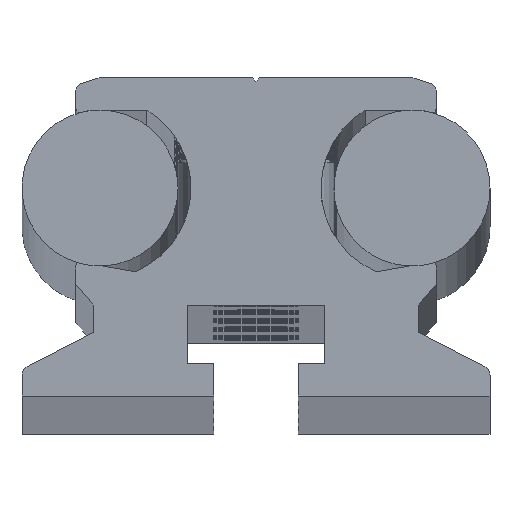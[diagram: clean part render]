
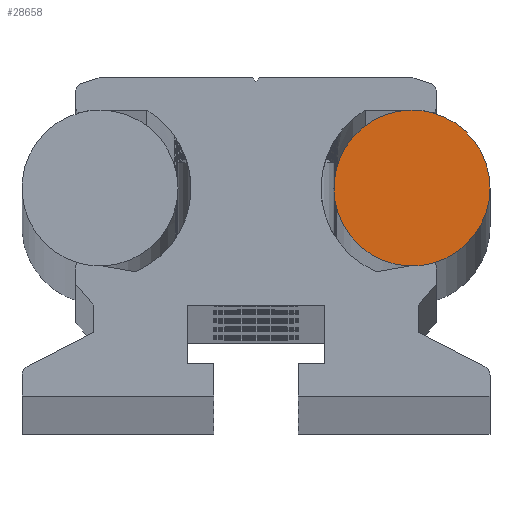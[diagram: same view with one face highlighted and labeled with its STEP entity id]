
A CAD part, top view. The second image highlights one B-rep face of the part: STEP entity #28658.
In plain terms, the highlighted planar face has unit normal (0, 0, 1).
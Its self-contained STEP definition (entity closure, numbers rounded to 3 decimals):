
#2013 = CARTESIAN_POINT ( 'NONE',  ( 12., 16., -0.5 ) ) ;
#2026 = PLANE ( 'NONE',  #23090 ) ;
#2037 = DIRECTION ( 'NONE',  ( 0., 0., 1. ) ) ;
#2038 = DIRECTION ( 'NONE',  ( 1., 0., 0. ) ) ;
#6759 = EDGE_CURVE ( 'NONE', #10334, #10362, #19289, .T. ) ;
#7445 = CARTESIAN_POINT ( 'NONE',  ( 13.516, 21.805, -0.5 ) ) ;
#7664 = FACE_OUTER_BOUND ( 'NONE', #27510, .T. ) ;
#8867 = EDGE_CURVE ( 'NONE', #10289, #10251, #15431, .T. ) ;
#8892 = EDGE_CURVE ( 'NONE', #28531, #10334, #15449, .T. ) ;
#10251 = VERTEX_POINT ( 'NONE', #25933 ) ;
#10289 = VERTEX_POINT ( 'NONE', #26007 ) ;
#10334 = VERTEX_POINT ( 'NONE', #26097 ) ;
#10362 = VERTEX_POINT ( 'NONE', #26152 ) ;
#11552 = CARTESIAN_POINT ( 'NONE',  ( 12., 16., -0.5 ) ) ;
#11559 = DIRECTION ( 'NONE',  ( 0., 0., 1. ) ) ;
#11560 = DIRECTION ( 'NONE',  ( 1., 0., 0. ) ) ;
#11561 = CARTESIAN_POINT ( 'NONE',  ( 12., 16., -0.5 ) ) ;
#11568 = DIRECTION ( 'NONE',  ( 0., 0., 1. ) ) ;
#11569 = DIRECTION ( 'NONE',  ( 1., 0., 0. ) ) ;
#15431 = CIRCLE ( 'NONE', #22543, 6. ) ;
#15449 = CIRCLE ( 'NONE', #22552, 6. ) ;
#16083 = CIRCLE ( 'NONE', #22666, 6. ) ;
#16091 = CIRCLE ( 'NONE', #22669, 6. ) ;
#17624 = CARTESIAN_POINT ( 'NONE',  ( 12., 16., -0.5 ) ) ;
#17625 = DIRECTION ( 'NONE',  ( 0., 0., -1. ) ) ;
#17626 = DIRECTION ( 'NONE',  ( 1., 0., 0. ) ) ;
#19289 = CIRCLE ( 'NONE', #22473, 6. ) ;
#20747 = ORIENTED_EDGE ( 'NONE', *, *, #21482, .T. ) ;
#20748 = ORIENTED_EDGE ( 'NONE', *, *, #8867, .T. ) ;
#20749 = ORIENTED_EDGE ( 'NONE', *, *, #21489, .T. ) ;
#20750 = ORIENTED_EDGE ( 'NONE', *, *, #6759, .F. ) ;
#20751 = ORIENTED_EDGE ( 'NONE', *, *, #8892, .F. ) ;
#21482 = EDGE_CURVE ( 'NONE', #28531, #10289, #16083, .T. ) ;
#21489 = EDGE_CURVE ( 'NONE', #10251, #10362, #16091, .T. ) ;
#22473 = AXIS2_PLACEMENT_3D ( 'NONE', #17624, #17625, #17626 ) ;
#22543 = AXIS2_PLACEMENT_3D ( 'NONE', #30593, #30596, #30598 ) ;
#22552 = AXIS2_PLACEMENT_3D ( 'NONE', #30646, #30669, #30671 ) ;
#22666 = AXIS2_PLACEMENT_3D ( 'NONE', #11552, #11559, #11560 ) ;
#22669 = AXIS2_PLACEMENT_3D ( 'NONE', #11561, #11568, #11569 ) ;
#23090 = AXIS2_PLACEMENT_3D ( 'NONE', #2013, #2037, #2038 ) ;
#25933 = CARTESIAN_POINT ( 'NONE',  ( 11.819, 10.003, -0.5 ) ) ;
#26007 = CARTESIAN_POINT ( 'NONE',  ( 12., 22., -0.5 ) ) ;
#26097 = CARTESIAN_POINT ( 'NONE',  ( 18., 16., -0.5 ) ) ;
#26152 = CARTESIAN_POINT ( 'NONE',  ( 13.719, 10.251, -0.5 ) ) ;
#27510 = EDGE_LOOP ( 'NONE', ( #20747, #20748, #20749, #20750, #20751 ) ) ;
#28531 = VERTEX_POINT ( 'NONE', #7445 ) ;
#28658 = ADVANCED_FACE ( 'NONE', ( #7664 ), #2026, .T. ) ;
#30593 = CARTESIAN_POINT ( 'NONE',  ( 12., 16., -0.5 ) ) ;
#30596 = DIRECTION ( 'NONE',  ( 0., 0., 1. ) ) ;
#30598 = DIRECTION ( 'NONE',  ( 1., 0., 0. ) ) ;
#30646 = CARTESIAN_POINT ( 'NONE',  ( 12., 16., -0.5 ) ) ;
#30669 = DIRECTION ( 'NONE',  ( 0., 0., -1. ) ) ;
#30671 = DIRECTION ( 'NONE',  ( 1., 0., 0. ) ) ;
